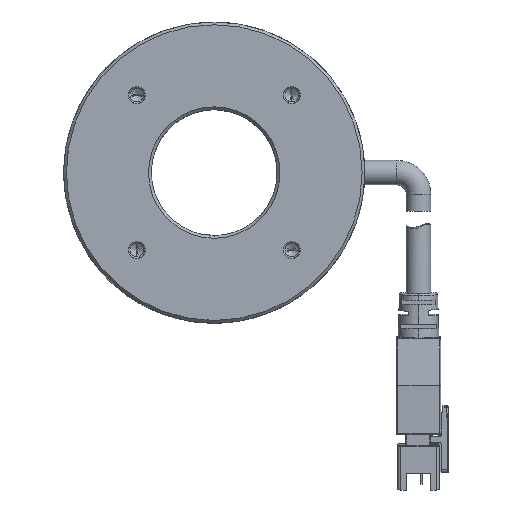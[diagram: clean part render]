
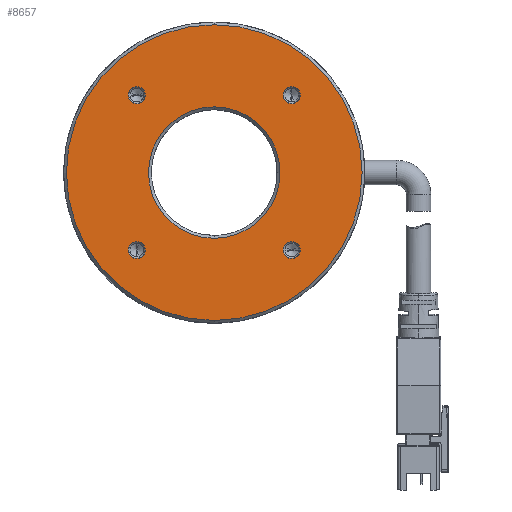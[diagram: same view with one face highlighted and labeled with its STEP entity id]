
A CAD part, top view. The second image highlights one B-rep face of the part: STEP entity #8657.
In plain terms, the highlighted planar face has unit normal (0, 0, 1).
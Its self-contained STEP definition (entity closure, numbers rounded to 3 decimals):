
#2014=CARTESIAN_POINT('',(-14.142,-14.142,1.5));
#2015=DIRECTION('',(0.,0.,-1.));
#2016=DIRECTION('',(0.,1.,0.));
#2017=AXIS2_PLACEMENT_3D('',#2014,#2015,#2016);
#2019=CARTESIAN_POINT('',(-14.142,-14.142,1.5));
#2020=DIRECTION('',(0.,0.,-1.));
#2021=DIRECTION('',(0.,-1.,0.));
#2022=AXIS2_PLACEMENT_3D('',#2019,#2020,#2021);
#2024=CARTESIAN_POINT('',(14.142,14.142,1.5));
#2025=DIRECTION('',(0.,0.,-1.));
#2026=DIRECTION('',(0.,1.,0.));
#2027=AXIS2_PLACEMENT_3D('',#2024,#2025,#2026);
#2029=CARTESIAN_POINT('',(14.142,14.142,1.5));
#2030=DIRECTION('',(0.,0.,-1.));
#2031=DIRECTION('',(0.,-1.,0.));
#2032=AXIS2_PLACEMENT_3D('',#2029,#2030,#2031);
#2034=CARTESIAN_POINT('',(0.,0.,1.5));
#2035=DIRECTION('',(0.,0.,-1.));
#2036=DIRECTION('',(0.,1.,0.));
#2037=AXIS2_PLACEMENT_3D('',#2034,#2035,#2036);
#2039=CARTESIAN_POINT('',(0.,0.,1.5));
#2040=DIRECTION('',(0.,0.,-1.));
#2041=DIRECTION('',(0.,-1.,0.));
#2042=AXIS2_PLACEMENT_3D('',#2039,#2040,#2041);
#2044=CARTESIAN_POINT('',(0.,0.,1.5));
#2045=DIRECTION('',(0.,0.,1.));
#2046=DIRECTION('',(0.,1.,0.));
#2047=AXIS2_PLACEMENT_3D('',#2044,#2045,#2046);
#2049=CARTESIAN_POINT('',(0.,0.,1.5));
#2050=DIRECTION('',(0.,0.,1.));
#2051=DIRECTION('',(0.,-1.,0.));
#2052=AXIS2_PLACEMENT_3D('',#2049,#2050,#2051);
#2102=CARTESIAN_POINT('',(14.142,-14.142,1.5));
#2103=DIRECTION('',(0.,0.,-1.));
#2104=DIRECTION('',(1.,0.,0.));
#2105=AXIS2_PLACEMENT_3D('',#2102,#2103,#2104);
#2116=CARTESIAN_POINT('',(14.142,-14.142,1.5));
#2117=DIRECTION('',(0.,0.,-1.));
#2118=DIRECTION('',(-1.,0.,0.));
#2119=AXIS2_PLACEMENT_3D('',#2116,#2117,#2118);
#2200=CARTESIAN_POINT('',(-14.142,14.142,1.5));
#2201=DIRECTION('',(0.,0.,-1.));
#2202=DIRECTION('',(-1.,0.,0.));
#2203=AXIS2_PLACEMENT_3D('',#2200,#2201,#2202);
#2214=CARTESIAN_POINT('',(-14.142,14.142,1.5));
#2215=DIRECTION('',(0.,0.,-1.));
#2216=DIRECTION('',(1.,0.,0.));
#2217=AXIS2_PLACEMENT_3D('',#2214,#2215,#2216);
#5090=CARTESIAN_POINT('',(0.,-27.,1.5));
#5091=CARTESIAN_POINT('',(0.,27.,1.5));
#5092=VERTEX_POINT('',#5090);
#5093=VERTEX_POINT('',#5091);
#5094=CARTESIAN_POINT('',(0.,-12.,1.5));
#5095=CARTESIAN_POINT('',(0.,12.,1.5));
#5096=VERTEX_POINT('',#5094);
#5097=VERTEX_POINT('',#5095);
#5098=CARTESIAN_POINT('',(14.142,12.592,1.5));
#5099=CARTESIAN_POINT('',(14.142,15.692,1.5));
#5100=VERTEX_POINT('',#5098);
#5101=VERTEX_POINT('',#5099);
#5102=CARTESIAN_POINT('',(-14.142,-15.692,1.5));
#5103=CARTESIAN_POINT('',(-14.142,-12.592,1.5));
#5104=VERTEX_POINT('',#5102);
#5105=VERTEX_POINT('',#5103);
#5154=CARTESIAN_POINT('',(-15.692,14.142,1.5));
#5156=VERTEX_POINT('',#5154);
#5159=CARTESIAN_POINT('',(-12.592,14.142,1.5));
#5161=VERTEX_POINT('',#5159);
#5178=CARTESIAN_POINT('',(15.692,-14.142,1.5));
#5180=VERTEX_POINT('',#5178);
#5183=CARTESIAN_POINT('',(12.592,-14.142,1.5));
#5185=VERTEX_POINT('',#5183);
#8618=CARTESIAN_POINT('',(0.,0.,1.5));
#8619=DIRECTION('',(0.,0.,-1.));
#8620=DIRECTION('',(0.,1.,0.));
#8621=AXIS2_PLACEMENT_3D('',#8618,#8619,#8620);
#8622=PLANE('',#8621);
#8624=ORIENTED_EDGE('',*,*,#8623,.F.);
#8626=ORIENTED_EDGE('',*,*,#8625,.F.);
#8627=EDGE_LOOP('',(#8624,#8626));
#8628=FACE_OUTER_BOUND('',#8627,.F.);
#8630=ORIENTED_EDGE('',*,*,#8629,.F.);
#8632=ORIENTED_EDGE('',*,*,#8631,.F.);
#8633=EDGE_LOOP('',(#8630,#8632));
#8634=FACE_BOUND('',#8633,.F.);
#8636=ORIENTED_EDGE('',*,*,#8635,.F.);
#8638=ORIENTED_EDGE('',*,*,#8637,.F.);
#8639=EDGE_LOOP('',(#8636,#8638));
#8640=FACE_BOUND('',#8639,.F.);
#8642=ORIENTED_EDGE('',*,*,#8641,.F.);
#8644=ORIENTED_EDGE('',*,*,#8643,.F.);
#8645=EDGE_LOOP('',(#8642,#8644));
#8646=FACE_BOUND('',#8645,.F.);
#8647=ORIENTED_EDGE('',*,*,#8611,.F.);
#8648=ORIENTED_EDGE('',*,*,#8597,.F.);
#8649=EDGE_LOOP('',(#8647,#8648));
#8650=FACE_BOUND('',#8649,.F.);
#8652=ORIENTED_EDGE('',*,*,#8651,.F.);
#8654=ORIENTED_EDGE('',*,*,#8653,.F.);
#8655=EDGE_LOOP('',(#8652,#8654));
#8656=FACE_BOUND('',#8655,.F.);
#8657=ADVANCED_FACE('',(#8628,#8634,#8640,#8646,#8650,#8656),#8622,.F.);
#2018=CIRCLE('',#2017,1.55);
#2023=CIRCLE('',#2022,1.55);
#2028=CIRCLE('',#2027,1.55);
#2033=CIRCLE('',#2032,1.55);
#2038=CIRCLE('',#2037,12.);
#2043=CIRCLE('',#2042,12.);
#2048=CIRCLE('',#2047,27.);
#2053=CIRCLE('',#2052,27.);
#2106=CIRCLE('',#2105,1.55);
#2120=CIRCLE('',#2119,1.55);
#2204=CIRCLE('',#2203,1.55);
#2218=CIRCLE('',#2217,1.55);
#8597=EDGE_CURVE('',#5096,#5097,#2043,.T.);
#8611=EDGE_CURVE('',#5097,#5096,#2038,.T.);
#8623=EDGE_CURVE('',#5093,#5092,#2048,.T.);
#8625=EDGE_CURVE('',#5092,#5093,#2053,.T.);
#8629=EDGE_CURVE('',#5180,#5185,#2106,.T.);
#8631=EDGE_CURVE('',#5185,#5180,#2120,.T.);
#8635=EDGE_CURVE('',#5101,#5100,#2028,.T.);
#8637=EDGE_CURVE('',#5100,#5101,#2033,.T.);
#8641=EDGE_CURVE('',#5156,#5161,#2204,.T.);
#8643=EDGE_CURVE('',#5161,#5156,#2218,.T.);
#8651=EDGE_CURVE('',#5105,#5104,#2018,.T.);
#8653=EDGE_CURVE('',#5104,#5105,#2023,.T.);
